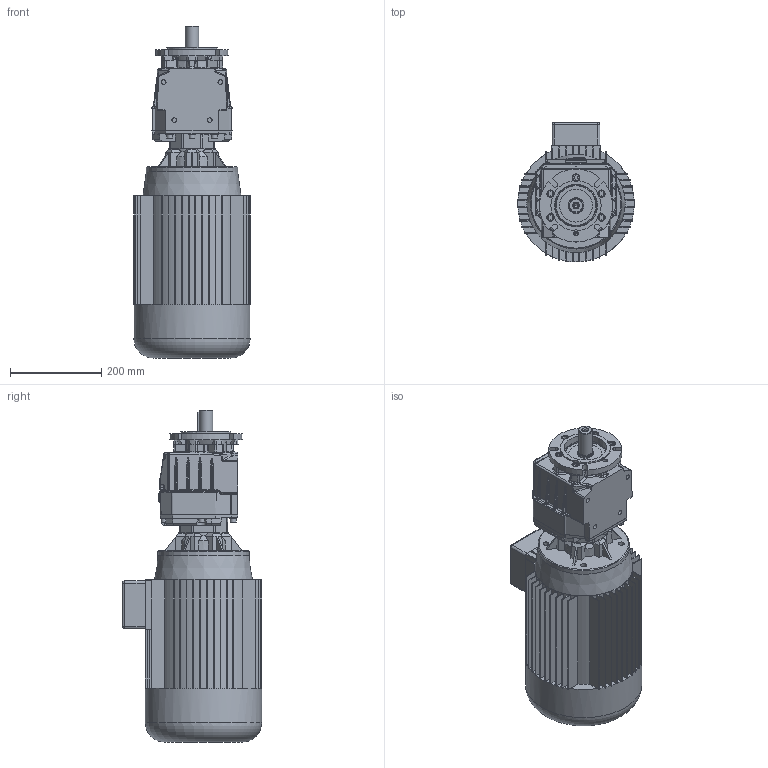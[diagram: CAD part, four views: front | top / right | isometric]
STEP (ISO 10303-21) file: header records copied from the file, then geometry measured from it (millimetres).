
FILE_DESCRIPTION( ( 'Unknown' ), '1' );
FILE_NAME( 'E:/services/configuratordownloads/customers/HYDROMEC/COASSIALI/download/41C14FF9A448A45B4E54BA75352EC4F/STEP/41C14FF9A448A45B4E54BA75352EC4F.3d.stp', 'Unknown', ( 'Unknown' ), ( 'Unknown' ), 'PSStep 10.1', 'Unknown', ' ' );
FILE_SCHEMA( ( 'AUTOMOTIVE_DESIGN { 1 0 10303 214 1 1 1 1 }' ) );
Length unit declared in the file: millimetre
Products named in the file (1): C518800
Bounding box: 254.95 x 305.48 x 727.4 mm (x, y, z)
Volume: 22430351.1 mm3; surface area: 1178674.7 mm2
Topology: 1 solids, 33 shells, 1915 faces, 4856 edges, 3052 vertices
Faces by surface type: plane 1061, cylinder 465, bspline 203, cone 111, torus 43, sphere 20, revolution 8, extrusion 4
Full cylindrical faces by diameter (mm): 4.917 x6, 6 x6, 6.5 x1, 7.262 x6, 8 x1, 8.376 x11, 8.5 x12, 10 x7, 10.106 x8, 10.5 x6, 11.3 x1, 11.445 x2, 12.5 x4, 12.75 x8, 13 x6, 13.5 x1, 15.8 x5, 16.5 x5, 18 x1, 19 x1, 20 x1, 22 x1, 28.6 x1, 30 x1, 35 x1, 38 x1, 40 x1, 43.5 x1, 61 x1, 63 x1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
Entity records: 89878 total; most frequent: CARTESIAN_POINT 30262, DIRECTION 9124, ORIENTED_EDGE 9074, EDGE_CURVE 4537, AXIS2_PLACEMENT_3D 3237, VERTEX_POINT 2951, VECTOR 2642, LINE 2638
